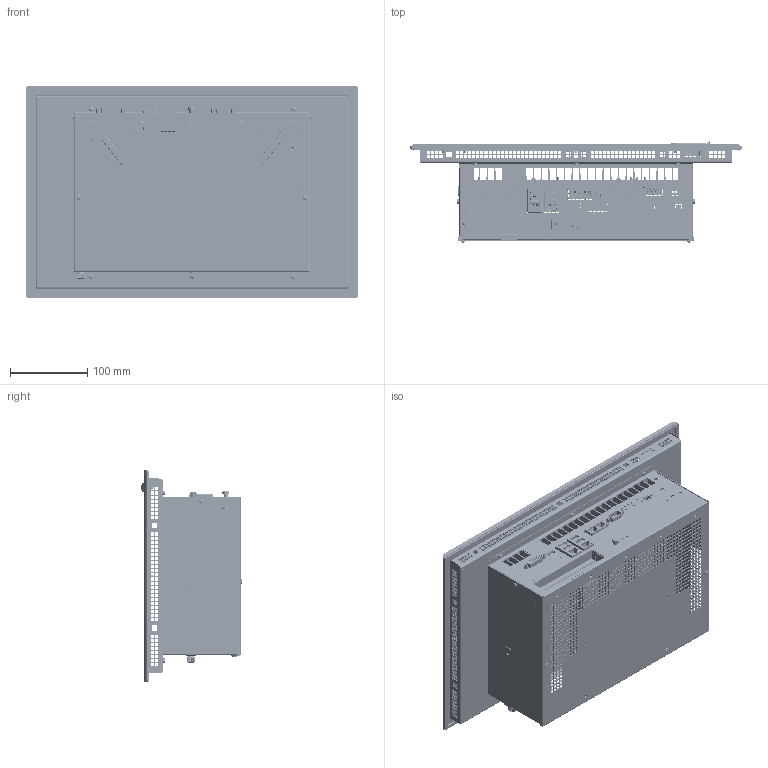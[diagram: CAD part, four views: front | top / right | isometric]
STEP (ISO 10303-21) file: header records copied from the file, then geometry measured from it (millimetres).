
FILE_DESCRIPTION((''),'2;1');
FILE_NAME('C6P34-Panel_156W_Res_S1_ASM','2019-02-01T',('rafrev'),(''),'PRO/ENGINEER BY PARAMETRIC TECHNOLOGY CORPORATION, 2013410','PRO/ENGINEER BY PARAMETRIC TECHNOLOGY CORPORATION, 2013410','');
FILE_SCHEMA(('AUTOMOTIVE_DESIGN { 1 0 10303 214 1 1 1 1 }'));
Products named in the file (1): C6P34-Panel_156W_Res_S1_ASM
Bounding box: 430 x 130.92 x 275 mm (x, y, z)
Surface area: 1098298.6 mm2 (no closed solid volume)
Topology: 0 solids, 364 shells, 10755 faces, 37543 edges, 26941 vertices
Faces by surface type: plane 9033, cylinder 980, cone 409, bspline 205, torus 85, sphere 30, extrusion 13
Entity records: 463916 total; most frequent: CARTESIAN_POINT 97683, ORIENTED_EDGE 65006, DIRECTION 61347, EDGE_CURVE 37497, VECTOR 31487, LINE 31474, VERTEX_POINT 26941, EDGE_LOOP 14972
